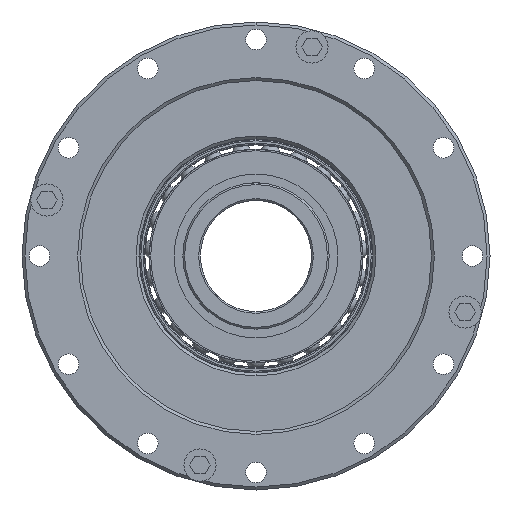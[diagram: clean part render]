
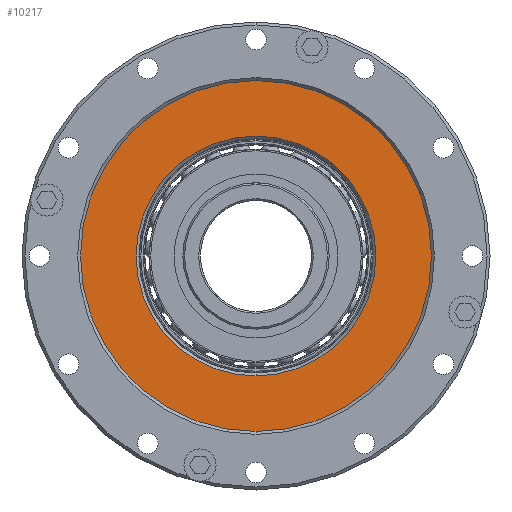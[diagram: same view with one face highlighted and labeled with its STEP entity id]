
A CAD part, left-side view. The second image highlights one B-rep face of the part: STEP entity #10217.
In plain terms, the highlighted planar face has unit normal (-1, 0, 0).
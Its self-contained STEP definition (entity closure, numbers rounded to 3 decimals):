
#5194=CARTESIAN_POINT('',(-3.8,0.,0.));
#5195=DIRECTION('',(-1.,0.,0.));
#5196=DIRECTION('',(0.,0.,1.));
#5197=AXIS2_PLACEMENT_3D('',#5194,#5195,#5196);
#5202=CARTESIAN_POINT('',(-3.8,0.,0.));
#5203=DIRECTION('',(-1.,0.,0.));
#5204=DIRECTION('',(0.,0.,-1.));
#5205=AXIS2_PLACEMENT_3D('',#5202,#5203,#5204);
#5210=CARTESIAN_POINT('',(-3.8,0.,0.));
#5211=DIRECTION('',(1.,0.,0.));
#5212=DIRECTION('',(0.,0.,-1.));
#5213=AXIS2_PLACEMENT_3D('',#5210,#5211,#5212);
#5218=CARTESIAN_POINT('',(-3.8,0.,0.));
#5219=DIRECTION('',(1.,0.,0.));
#5220=DIRECTION('',(0.,0.,1.));
#5221=AXIS2_PLACEMENT_3D('',#5218,#5219,#5220);
#8273=CARTESIAN_POINT('',(-3.8,0.,30.));
#8275=VERTEX_POINT('',#8273);
#8277=CARTESIAN_POINT('',(-3.8,0.,-30.));
#8279=VERTEX_POINT('',#8277);
#8301=CARTESIAN_POINT('',(-3.8,0.,20.5));
#8302=VERTEX_POINT('',#8301);
#8303=CARTESIAN_POINT('',(-3.8,0.,-20.5));
#8304=VERTEX_POINT('',#8303);
#10202=CARTESIAN_POINT('',(-3.8,30.,0.));
#10203=DIRECTION('',(1.,0.,0.));
#10204=DIRECTION('',(0.,0.,-1.));
#10205=AXIS2_PLACEMENT_3D('',#10202,#10203,#10204);
#10206=PLANE('',#10205);
#10207=ORIENTED_EDGE('',*,*,#10196,.F.);
#10208=ORIENTED_EDGE('',*,*,#10182,.F.);
#10209=EDGE_LOOP('',(#10207,#10208));
#10210=FACE_OUTER_BOUND('',#10209,.F.);
#10212=ORIENTED_EDGE('',*,*,#10211,.F.);
#10214=ORIENTED_EDGE('',*,*,#10213,.F.);
#10215=EDGE_LOOP('',(#10212,#10214));
#10216=FACE_BOUND('',#10215,.F.);
#5198=CIRCLE('',#5197,30.);
#5206=CIRCLE('',#5205,30.);
#5214=CIRCLE('',#5213,20.5);
#5222=CIRCLE('',#5221,20.5);
#10182=EDGE_CURVE('',#8279,#8275,#5206,.T.);
#10196=EDGE_CURVE('',#8275,#8279,#5198,.T.);
#10211=EDGE_CURVE('',#8304,#8302,#5214,.T.);
#10213=EDGE_CURVE('',#8302,#8304,#5222,.T.);
#10217=ADVANCED_FACE('',(#10210,#10216),#10206,.F.);
